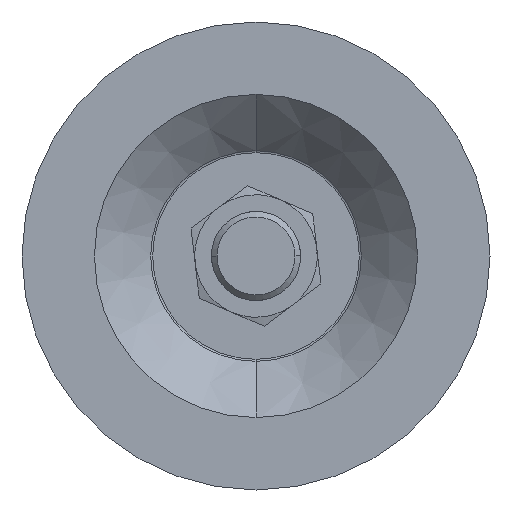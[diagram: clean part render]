
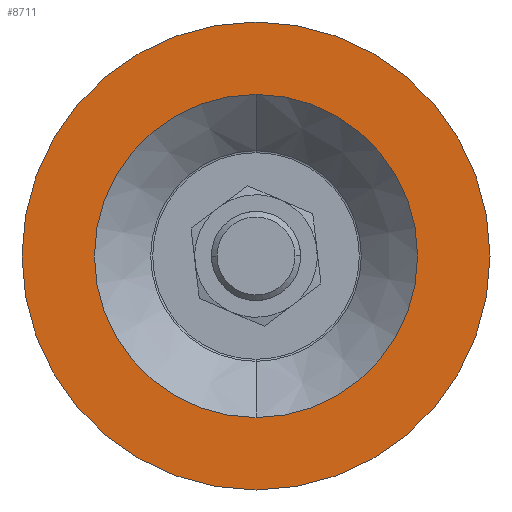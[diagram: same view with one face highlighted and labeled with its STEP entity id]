
A CAD part, front view. The second image highlights one B-rep face of the part: STEP entity #8711.
In plain terms, the highlighted planar face has unit normal (0, -1, 0).
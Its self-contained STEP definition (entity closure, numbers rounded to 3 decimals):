
#92 = DIRECTION ( 'NONE',  ( 0., 0., -1. ) ) ;
#276 = AXIS2_PLACEMENT_3D ( 'NONE', #6425, #5002, #2285 ) ;
#740 = ORIENTED_EDGE ( 'NONE', *, *, #6400, .F. ) ;
#786 = EDGE_CURVE ( 'NONE', #2086, #3361, #4814, .T. ) ;
#1244 = CARTESIAN_POINT ( 'NONE',  ( 0., -3.2, 0. ) ) ;
#1956 = VERTEX_POINT ( 'NONE', #7594 ) ;
#2011 = CIRCLE ( 'NONE', #7446, 42. ) ;
#2086 = VERTEX_POINT ( 'NONE', #7979 ) ;
#2172 = DIRECTION ( 'NONE',  ( 0., 0., -1. ) ) ;
#2285 = DIRECTION ( 'NONE',  ( 0., 0., -1. ) ) ;
#2610 = DIRECTION ( 'NONE',  ( 0., 0., -1. ) ) ;
#2826 = CIRCLE ( 'NONE', #6763, 29. ) ;
#3361 = VERTEX_POINT ( 'NONE', #7911 ) ;
#3407 = FACE_BOUND ( 'NONE', #6599, .T. ) ;
#4083 = ORIENTED_EDGE ( 'NONE', *, *, #786, .F. ) ;
#4330 = DIRECTION ( 'NONE',  ( 0., 0., -1. ) ) ;
#4397 = VERTEX_POINT ( 'NONE', #7785 ) ;
#4404 = EDGE_CURVE ( 'NONE', #1956, #4397, #2011, .T. ) ;
#4814 = CIRCLE ( 'NONE', #276, 29. ) ;
#4927 = PLANE ( 'NONE',  #6430 ) ;
#4973 = CARTESIAN_POINT ( 'NONE',  ( 0., -3.2, 0. ) ) ;
#5002 = DIRECTION ( 'NONE',  ( 0., -1., 0. ) ) ;
#5610 = DIRECTION ( 'NONE',  ( 0., -1., 0. ) ) ;
#6053 = DIRECTION ( 'NONE',  ( 0., -1., 0. ) ) ;
#6111 = ORIENTED_EDGE ( 'NONE', *, *, #7740, .T. ) ;
#6291 = CARTESIAN_POINT ( 'NONE',  ( 0., -3.2, 0. ) ) ;
#6309 = DIRECTION ( 'NONE',  ( 0., -1., 0. ) ) ;
#6400 = EDGE_CURVE ( 'NONE', #3361, #2086, #2826, .T. ) ;
#6425 = CARTESIAN_POINT ( 'NONE',  ( 0., -3.2, 0. ) ) ;
#6430 = AXIS2_PLACEMENT_3D ( 'NONE', #7036, #6309, #2172 ) ;
#6547 = EDGE_LOOP ( 'NONE', ( #6111, #7253 ) ) ;
#6599 = EDGE_LOOP ( 'NONE', ( #740, #4083 ) ) ;
#6707 = AXIS2_PLACEMENT_3D ( 'NONE', #1244, #6053, #2610 ) ;
#6763 = AXIS2_PLACEMENT_3D ( 'NONE', #4973, #7026, #4330 ) ;
#7026 = DIRECTION ( 'NONE',  ( 0., -1., 0. ) ) ;
#7036 = CARTESIAN_POINT ( 'NONE',  ( 42., -3.2, 0. ) ) ;
#7118 = FACE_OUTER_BOUND ( 'NONE', #6547, .T. ) ;
#7253 = ORIENTED_EDGE ( 'NONE', *, *, #4404, .T. ) ;
#7446 = AXIS2_PLACEMENT_3D ( 'NONE', #6291, #5610, #92 ) ;
#7594 = CARTESIAN_POINT ( 'NONE',  ( 0., -3.2, 42. ) ) ;
#7740 = EDGE_CURVE ( 'NONE', #4397, #1956, #8908, .T. ) ;
#7785 = CARTESIAN_POINT ( 'NONE',  ( 0., -3.2, -42. ) ) ;
#7911 = CARTESIAN_POINT ( 'NONE',  ( 0., -3.2, -29. ) ) ;
#7979 = CARTESIAN_POINT ( 'NONE',  ( 0., -3.2, 29. ) ) ;
#8711 = ADVANCED_FACE ( 'NONE', ( #7118, #3407 ), #4927, .T. ) ;
#8908 = CIRCLE ( 'NONE', #6707, 42. ) ;
